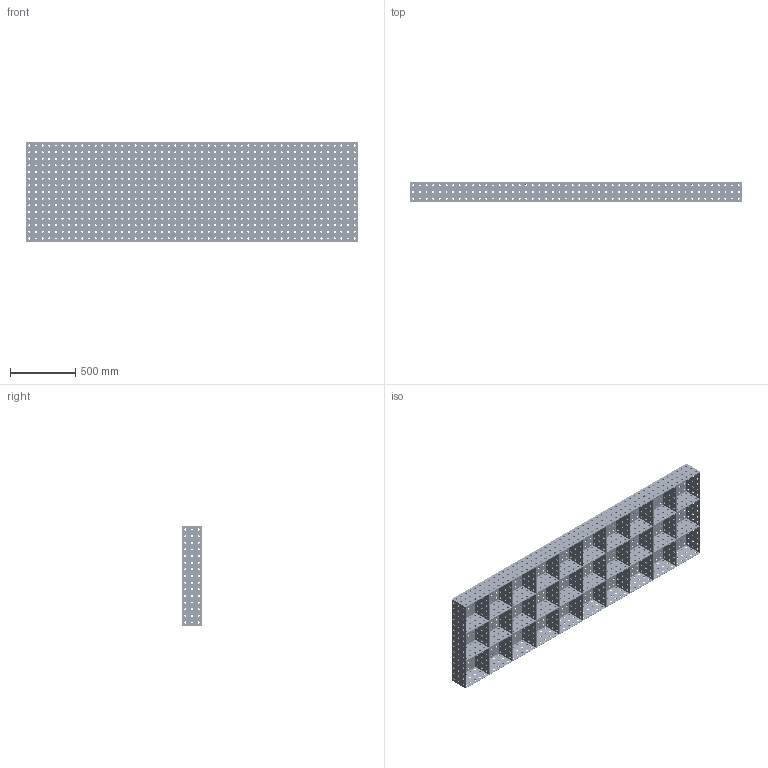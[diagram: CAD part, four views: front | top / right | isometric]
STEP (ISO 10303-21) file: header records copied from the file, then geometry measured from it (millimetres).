
FILE_DESCRIPTION (( 'STEP AP203' ), '1' );
FILE_NAME ('30x100.STEP', '2025-06-10T18:12:03', ( '' ), ( '' ), 'SwSTEP 2.0', 'SolidWorks 2023', '' );
FILE_SCHEMA (( 'CONFIG_CONTROL_DESIGN' ));
Length unit declared in the file: metre
Products named in the file (1): 30x100
Bounding box: 2540 x 152.4 x 762 mm (x, y, z)
Volume: 27287057.6 mm3; surface area: 9046345.2 mm2
Topology: 1 solids, 1 shells, 3846 faces, 11442 edges, 7628 vertices
Faces by surface type: cylinder 3690, plane 156
Entity records: 141025 total; most frequent: DIRECTION 26516, CARTESIAN_POINT 22917, ORIENTED_EDGE 22884, EDGE_CURVE 11442, AXIS2_PLACEMENT_3D 11227, VERTEX_POINT 7628, EDGE_LOOP 7566, CIRCLE 7380
